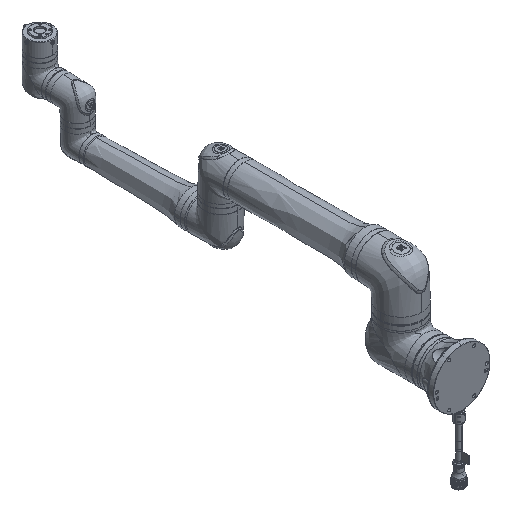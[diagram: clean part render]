
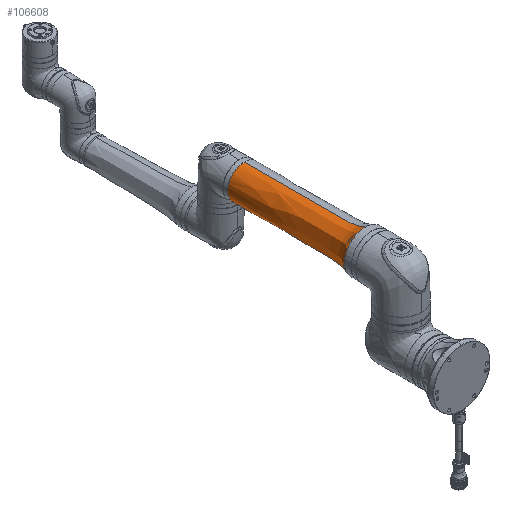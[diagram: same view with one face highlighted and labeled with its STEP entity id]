
A CAD part, isometric view. The second image highlights one B-rep face of the part: STEP entity #106608.
In plain terms, the highlighted free-form (B-spline) face has degree [5, 3] with [6, 4] control points.
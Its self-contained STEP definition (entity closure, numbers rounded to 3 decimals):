
#511 = EDGE_CURVE ( 'NONE', #116432, #18487, #51842, .T. ) ;
#526 = CARTESIAN_POINT ( 'NONE',  ( 0., 347.6, 146.2 ) ) ;
#1188 = CARTESIAN_POINT ( 'NONE',  ( -75., 347.6, 221.2 ) ) ;
#1237 = CARTESIAN_POINT ( 'NONE',  ( 0., 783.1, 161.2 ) ) ;
#1374 = VERTEX_POINT ( 'NONE', #53023 ) ;
#2464 = CARTESIAN_POINT ( 'NONE',  ( 0., 347.6, 221.2 ) ) ;
#2830 = CARTESIAN_POINT ( 'NONE',  ( 0., 783.1, 281.2 ) ) ;
#3550 = DIRECTION ( 'NONE',  ( -1., 0., 0. ) ) ;
#4078 = CARTESIAN_POINT ( 'NONE',  ( 0., 384.6, 163.3 ) ) ;
#4707 = CARTESIAN_POINT ( 'NONE',  ( -120., 783.1, 281.2 ) ) ;
#10531 = CARTESIAN_POINT ( 'NONE',  ( -122., 415.2, 282.2 ) ) ;
#11887 = DIRECTION ( 'NONE',  ( 0., 1., 0. ) ) ;
#12932 = DIRECTION ( 'NONE',  ( 0., 1., 0. ) ) ;
#14721 = CARTESIAN_POINT ( 'NONE',  ( 0., 380.8, 283. ) ) ;
#15782 = CARTESIAN_POINT ( 'NONE',  ( 0., 380.8, 283. ) ) ;
#16948 = VERTEX_POINT ( 'NONE', #2830 ) ;
#17738 = AXIS2_PLACEMENT_3D ( 'NONE', #60240, #11887, #50225 ) ;
#17963 = CARTESIAN_POINT ( 'NONE',  ( 0., 361.6, 151.5 ) ) ;
#18487 = VERTEX_POINT ( 'NONE', #44839 ) ;
#19876 = EDGE_CURVE ( 'NONE', #1374, #116432, #123642, .T. ) ;
#19962 = CARTESIAN_POINT ( 'NONE',  ( -123.6, 380.8, 283. ) ) ;
#23248 = VERTEX_POINT ( 'NONE', #1237 ) ;
#23357 = CARTESIAN_POINT ( 'NONE',  ( 0., 384.6, 279.1 ) ) ;
#23528 = CARTESIAN_POINT ( 'NONE',  ( -120., 783.1, 161.2 ) ) ;
#26140 = CARTESIAN_POINT ( 'NONE',  ( 0., 347.6, 146.2 ) ) ;
#28206 = ORIENTED_EDGE ( 'NONE', *, *, #105344, .F. ) ;
#29392 = CARTESIAN_POINT ( 'NONE',  ( 0., 361.6, 151.5 ) ) ;
#30011 = CARTESIAN_POINT ( 'NONE',  ( 0., 783.1, 281.2 ) ) ;
#33587 = CARTESIAN_POINT ( 'NONE',  ( -122., 415.2, 160.2 ) ) ;
#40787 = DIRECTION ( 'NONE',  ( 0., 1., 0. ) ) ;
#44604 = AXIS2_PLACEMENT_3D ( 'NONE', #81980, #12932, #3550 ) ;
#44839 = CARTESIAN_POINT ( 'NONE',  ( 0., 347.6, 296.2 ) ) ;
#46888 = CARTESIAN_POINT ( 'NONE',  ( 0., 384.6, 163.3 ) ) ;
#47022 = CARTESIAN_POINT ( 'NONE',  ( -139.4, 361.6, 290.9 ) ) ;
#50225 = DIRECTION ( 'NONE',  ( -1., 0., 0. ) ) ;
#51842 = CIRCLE ( 'NONE', #17738, 75. ) ;
#53023 = CARTESIAN_POINT ( 'NONE',  ( 0., 347.6, 146.2 ) ) ;
#53040 = ORIENTED_EDGE ( 'NONE', *, *, #66119, .F. ) ;
#56401 = FACE_OUTER_BOUND ( 'NONE', #98394, .T. ) ;
#60240 = CARTESIAN_POINT ( 'NONE',  ( 0., 347.6, 221.2 ) ) ;
#61845 = CARTESIAN_POINT ( 'NONE',  ( 0., 384.6, 279.1 ) ) ;
#63527 = CARTESIAN_POINT ( 'NONE',  ( 0., 783.1, 281.2 ) ) ;
#66119 = EDGE_CURVE ( 'NONE', #1374, #23248, #73973, .T. ) ;
#67703 = CARTESIAN_POINT ( 'NONE',  ( -139.4, 361.6, 151.5 ) ) ;
#68296 = EDGE_CURVE ( 'NONE', #18487, #16948, #70638, .T. ) ;
#70314 = ORIENTED_EDGE ( 'NONE', *, *, #19876, .T. ) ;
#70638 = B_SPLINE_CURVE_WITH_KNOTS ( 'NONE', 5,
 ( #72329, #82953, #15782, #23357, #110601, #63527 ),
 .UNSPECIFIED., .F., .F.,
 ( 6, 6 ),
 ( 0., 1. ),
 .UNSPECIFIED. ) ;
#71902 = CARTESIAN_POINT ( 'NONE',  ( 0., 783.1, 161.2 ) ) ;
#72329 = CARTESIAN_POINT ( 'NONE',  ( 0., 347.6, 296.2 ) ) ;
#73973 = B_SPLINE_CURVE_WITH_KNOTS ( 'NONE', 5,
 ( #26140, #17963, #74500, #46888, #121555, #93323 ),
 .UNSPECIFIED., .F., .F.,
 ( 6, 6 ),
 ( 0., 1. ),
 .UNSPECIFIED. ) ;
#74500 = CARTESIAN_POINT ( 'NONE',  ( 0., 380.8, 159.4 ) ) ;
#75896 = CARTESIAN_POINT ( 'NONE',  ( -123.6, 380.8, 159.4 ) ) ;
#77109 = CARTESIAN_POINT ( 'NONE',  ( -150., 347.6, 296.2 ) ) ;
#79576 = AXIS2_PLACEMENT_3D ( 'NONE', #2464, #40787, #115463 ) ;
#81980 = CARTESIAN_POINT ( 'NONE',  ( 0., 783.1, 221.2 ) ) ;
#82953 = CARTESIAN_POINT ( 'NONE',  ( 0., 361.6, 290.9 ) ) ;
#85281 = CARTESIAN_POINT ( 'NONE',  ( 0., 361.6, 290.9 ) ) ;
#90687 = CARTESIAN_POINT ( 'NONE',  ( 0., 415.2, 160.2 ) ) ;
#90708 = CIRCLE ( 'NONE', #44604, 60. ) ;
#93323 = CARTESIAN_POINT ( 'NONE',  ( 0., 783.1, 161.2 ) ) ;
#97168 = CARTESIAN_POINT ( 'NONE',  ( -115.8, 384.6, 279.1 ) ) ;
#98394 = EDGE_LOOP ( 'NONE', ( #53040, #70314, #99405, #123558, #28206 ) ) ;
#99405 = ORIENTED_EDGE ( 'NONE', *, *, #511, .T. ) ;
#105344 = EDGE_CURVE ( 'NONE', #23248, #16948, #90708, .T. ) ;
#106608 = ADVANCED_FACE ( 'NONE', ( #56401 ), #120050, .F. ) ;
#109533 = CARTESIAN_POINT ( 'NONE',  ( 0., 415.2, 282.2 ) ) ;
#110601 = CARTESIAN_POINT ( 'NONE',  ( 0., 415.2, 282.2 ) ) ;
#115376 = CARTESIAN_POINT ( 'NONE',  ( 0., 347.6, 296.2 ) ) ;
#115463 = DIRECTION ( 'NONE',  ( -1., 0., 0. ) ) ;
#116432 = VERTEX_POINT ( 'NONE', #1188 ) ;
#119561 = CARTESIAN_POINT ( 'NONE',  ( -115.8, 384.6, 163.3 ) ) ;
#120050 =( BOUNDED_SURFACE ( )  B_SPLINE_SURFACE ( 5, 3, ( 
 ( #526, #122928, #77109, #115376 ),
 ( #29392, #67703, #47022, #85281 ),
 ( #123554, #75896, #19962, #14721 ),
 ( #4078, #119561, #97168, #61845 ),
 ( #90687, #33587, #10531, #109533 ),
 ( #71902, #23528, #4707, #30011 ) ),
 .UNSPECIFIED., .F., .F., .F. ) 
 B_SPLINE_SURFACE_WITH_KNOTS ( ( 6, 6 ),
 ( 4, 4 ),
 ( 0., 1. ),
 ( 0., 1. ),
 .UNSPECIFIED. ) 
 GEOMETRIC_REPRESENTATION_ITEM ( )  RATIONAL_B_SPLINE_SURFACE ( (
 ( 1., 0.333, 0.333, 1.),
 ( 1., 0.333, 0.333, 1.),
 ( 1., 0.333, 0.333, 1.),
 ( 1., 0.333, 0.333, 1.),
 ( 1., 0.333, 0.333, 1.),
 ( 1., 0.333, 0.333, 1.) ) ) 
 REPRESENTATION_ITEM ( '' )  SURFACE ( )  );
#121555 = CARTESIAN_POINT ( 'NONE',  ( 0., 415.2, 160.2 ) ) ;
#122928 = CARTESIAN_POINT ( 'NONE',  ( -150., 347.6, 146.2 ) ) ;
#123554 = CARTESIAN_POINT ( 'NONE',  ( 0., 380.8, 159.4 ) ) ;
#123558 = ORIENTED_EDGE ( 'NONE', *, *, #68296, .T. ) ;
#123642 = CIRCLE ( 'NONE', #79576, 75. ) ;
